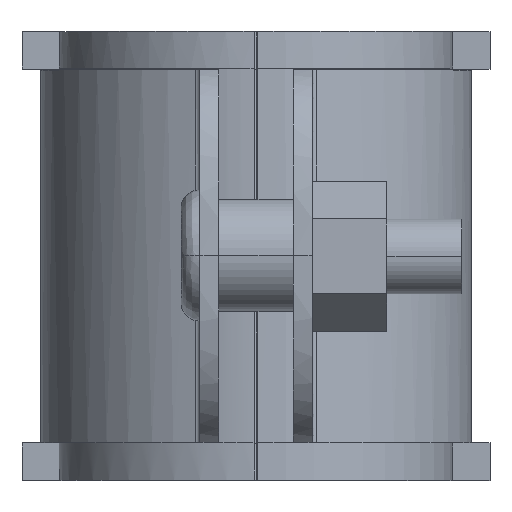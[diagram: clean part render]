
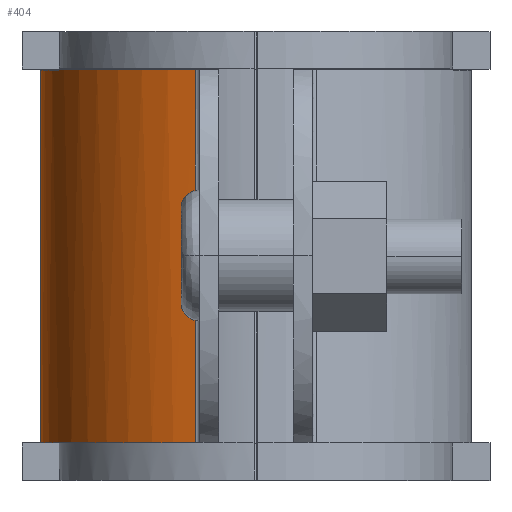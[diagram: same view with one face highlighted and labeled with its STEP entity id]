
A CAD part, top view. The second image highlights one B-rep face of the part: STEP entity #404.
In plain terms, the highlighted free-form (B-spline) face has degree [3, 1] with [4, 2] control points.
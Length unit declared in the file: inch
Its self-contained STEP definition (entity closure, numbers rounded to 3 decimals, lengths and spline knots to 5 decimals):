
#404=ADVANCED_FACE('',(#828),#829,.T.);
#828=FACE_OUTER_BOUND('',#1711,.T.);
#829=B_SPLINE_SURFACE_WITH_KNOTS('',3,1,((#1712,#1713),(#1714,#1715),(#1716,#1717),(#1718,#1719)),.UNSPECIFIED.,.F.,.F.,.F.,(4,4),(2,2),(0.0,1.0),(0.0,1.25),.UNSPECIFIED.);
#1711=EDGE_LOOP('',(#2845,#2846,#2847,#2848));
#1712=CARTESIAN_POINT('',(0.51719,1.25,2.09252));
#1713=CARTESIAN_POINT('',(0.51719,0.0,2.09252));
#1714=CARTESIAN_POINT('',(0.21834,1.25,2.00491));
#1715=CARTESIAN_POINT('',(0.21834,0.0,2.00491));
#1716=CARTESIAN_POINT('',(0.00006,1.25,1.72675));
#1717=CARTESIAN_POINT('',(0.00006,0.0,1.72675));
#1718=CARTESIAN_POINT('',(0.00006,1.25,1.39956));
#1719=CARTESIAN_POINT('',(0.00006,0.0,1.39956));
#2845=ORIENTED_EDGE('',*,*,#3623,.T.);
#2846=ORIENTED_EDGE('',*,*,#3554,.T.);
#2847=ORIENTED_EDGE('',*,*,#3225,.T.);
#2848=ORIENTED_EDGE('',*,*,#3160,.F.);
#3160=EDGE_CURVE('',#3690,#3692,#3693,.T.);
#3225=EDGE_CURVE('',#3808,#3692,#3809,.T.);
#3554=EDGE_CURVE('',#4320,#3808,#4321,.T.);
#3623=EDGE_CURVE('',#3690,#4320,#4397,.T.);
#3690=VERTEX_POINT('',#4470);
#3692=VERTEX_POINT('',#4474);
#3693=LINE('',#4475,#4476);
#3808=VERTEX_POINT('',#4667);
#3809=B_SPLINE_CURVE_WITH_KNOTS('',3,(#4668,#4669,#4670,#4671),.UNSPECIFIED.,.F.,.F.,(4,4),(-1.0,-0.0),.UNSPECIFIED.);
#4320=VERTEX_POINT('',#5642);
#4321=LINE('',#5643,#5644);
#4397=B_SPLINE_CURVE_WITH_KNOTS('',3,(#5788,#5789,#5790,#5791),.UNSPECIFIED.,.F.,.F.,(4,4),(0.0,1.0),.UNSPECIFIED.);
#4470=CARTESIAN_POINT('',(0.51719,1.24627,2.09252));
#4474=CARTESIAN_POINT('',(0.51719,0.0,2.09252));
#4475=CARTESIAN_POINT('',(0.51719,1.25,2.09252));
#4476=VECTOR('',#5900,1.0);
#4667=CARTESIAN_POINT('',(0.00006,0.0,1.39956));
#4668=CARTESIAN_POINT('',(0.00006,0.0,1.39956));
#4669=CARTESIAN_POINT('',(0.00006,0.0,1.72675));
#4670=CARTESIAN_POINT('',(0.21834,0.0,2.00491));
#4671=CARTESIAN_POINT('',(0.51719,0.0,2.09252));
#5642=CARTESIAN_POINT('',(0.00006,1.24627,1.39956));
#5643=CARTESIAN_POINT('',(0.00006,1.25,1.39956));
#5644=VECTOR('',#6141,1.0);
#5788=CARTESIAN_POINT('',(0.51719,1.24627,2.09252));
#5789=CARTESIAN_POINT('',(0.21834,1.24627,2.00491));
#5790=CARTESIAN_POINT('',(0.00006,1.24627,1.72675));
#5791=CARTESIAN_POINT('',(0.00006,1.24627,1.39956));
#5900=DIRECTION('',(0.0,-1.0,0.0));
#6141=DIRECTION('',(0.0,-1.0,0.0));
